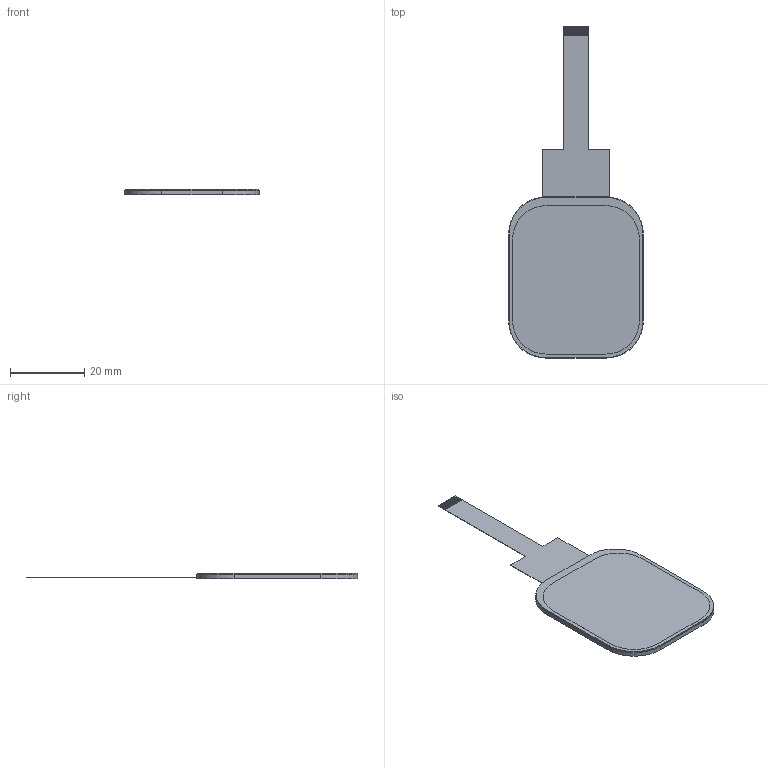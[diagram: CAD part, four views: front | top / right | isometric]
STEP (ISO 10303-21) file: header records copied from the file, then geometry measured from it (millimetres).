
FILE_DESCRIPTION(('FreeCAD Model'),'2;1');
FILE_NAME('Open CASCADE Shape Model','2026-09-21T09:16:45',('FreeCAD'),( 'FreeCAD'),'Open CASCADE STEP processor 7.8','FreeCAD','Unknown');
FILE_SCHEMA(('AUTOMOTIVE_DESIGN { 1 0 10303 214 1 1 1 1 }'));
Length unit declared in the file: millimetre
Products named in the file (1): Open CASCADE STEP translator 7.8 1
Bounding box: 36.33 x 89.59 x 1.46 mm (x, y, z)
Volume: 2242.3 mm3; surface area: 9687 mm2
Topology: 25 solids, 25 shells, 166 faces, 348 edges, 232 vertices
Faces by surface type: plane 154, cylinder 12
Entity records: 4318 total; most frequent: CARTESIAN_POINT 747, DIRECTION 706, ORIENTED_EDGE 696, EDGE_CURVE 348, LINE 324, VECTOR 324, VERTEX_POINT 232, AXIS2_PLACEMENT_3D 191
